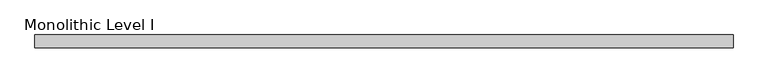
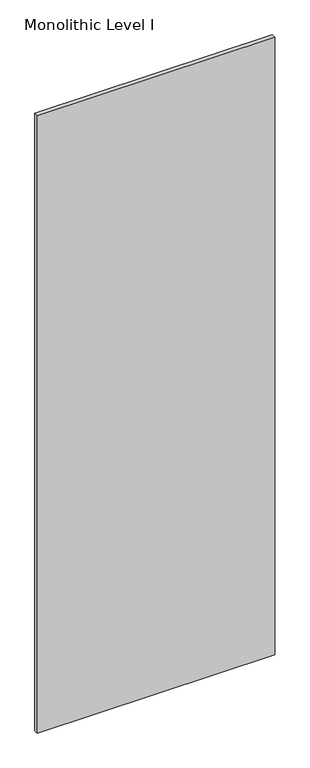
"""IFC4 building model written with IfcOpenShell, lengths in millimetres: proxy geometry, Panel-Fascia-Teknion-Altos-Standard : Monolithic Level I."""

from ifc_helpers import new_model, si_unit, frame, origin, place, context, project, spatial, polyline, outline, extrude, source, transform, mapped, element, save


def monolithic_level_i_f301c96f(model_context):
    return source(origin(), model_context, "Body", "SweptSolid", [
        extrude(outline(polyline([(523.2300781, 9.525), (523.2300781, -9.525), (-523.2300781, -9.525), (-523.2300781, 9.525), (523.2300781, 9.525)])), frame((0.0, 0.0, 3.175), z_axis=(0.0, 0.0, 1.0), x_axis=(1.0, 0.0, 0.0)), (0.0, 0.0, 1.0), 2877.693),
    ])


if __name__ == "__main__":
    model = new_model("IFC4")
    model_context = context("Model", 3, world=origin())
    ifc_project = project(units=[si_unit("LENGTHUNIT", "METRE", prefix="MILLI")], contexts=[model_context])
    site = spatial("IfcSite", under=ifc_project)
    building = spatial("IfcBuilding", under=site)
    placement = place(None, origin())
    monolithic_level_i_shape = monolithic_level_i_f301c96f(model_context)
    element("IfcBuildingElementProxy", 1, Name="Panel-Fascia-Teknion-Altos-Standard : Monolithic Level I", ObjectType="Panel-Fascia-Teknion-Altos-Standard : Monolithic Level I", at=placement, inside=building, context=model_context, shape_type="MappedRepresentation", body=[
        mapped(monolithic_level_i_shape, transform((0.0, 0.0, 0.0), x_axis=(1.0, 0.0, 0.0), y_axis=(0.0, 1.0, 0.0), z_axis=(0.0, 0.0, 1.0))),
    ])
    save(model, "model.ifc")
